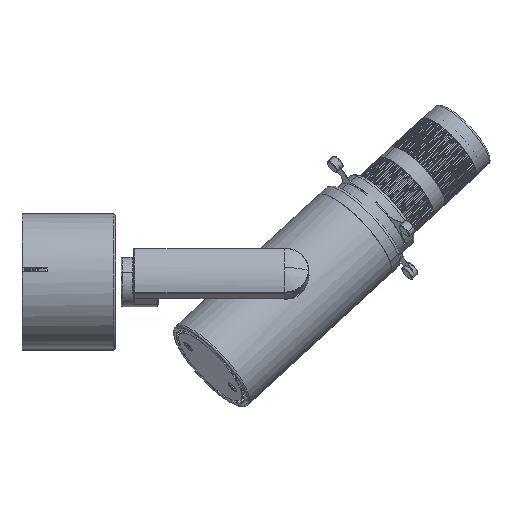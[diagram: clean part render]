
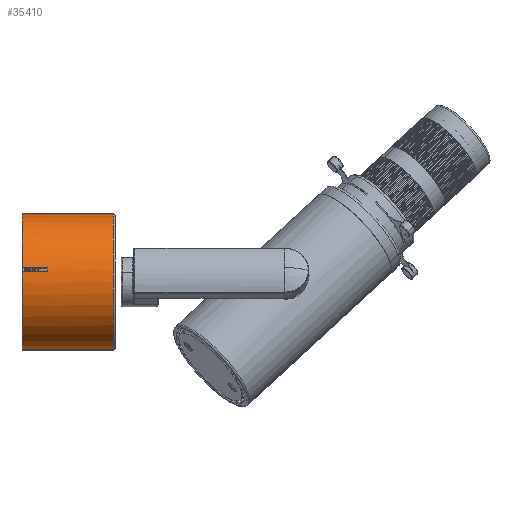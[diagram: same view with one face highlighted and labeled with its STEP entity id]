
A CAD part, left-side view. The second image highlights one B-rep face of the part: STEP entity #35410.
In plain terms, the highlighted cylindrical face has radius 32.5 mm (diameter 65 mm), a partial arc.
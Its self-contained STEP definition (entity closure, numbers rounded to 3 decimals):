
#7746 = VERTEX_POINT ( 'NONE', #26640 ) ;
#7763 = EDGE_CURVE ( 'NONE', #21160, #50539, #20123, .T. ) ;
#7766 = DIRECTION ( 'NONE',  ( -1., 0., 0. ) ) ;
#8017 = DIRECTION ( 'NONE',  ( 1., 0., 0. ) ) ;
#9281 = DIRECTION ( 'NONE',  ( 0., 0.977, 0.212 ) ) ;
#10432 = CARTESIAN_POINT ( 'NONE',  ( 63.786, 984.023, -20.469 ) ) ;
#17018 = VERTEX_POINT ( 'NONE', #103975 ) ;
#18160 = ORIENTED_EDGE ( 'NONE', *, *, #26541, .F. ) ;
#20123 = CIRCLE ( 'NONE', #116134, 32.5 ) ;
#20160 = CARTESIAN_POINT ( 'NONE',  ( 63.786, 989.926, -52.429 ) ) ;
#21014 = CARTESIAN_POINT ( 'NONE',  ( 51.786, 1016.149, -15.552 ) ) ;
#21160 = VERTEX_POINT ( 'NONE', #21014 ) ;
#22073 = ORIENTED_EDGE ( 'NONE', *, *, #174760, .F. ) ;
#23098 = LINE ( 'NONE', #218483, #149504 ) ;
#23990 = DIRECTION ( 'NONE',  ( 0., -0.182, 0.983 ) ) ;
#25968 = CARTESIAN_POINT ( 'NONE',  ( 51.786, 1015.785, -13.585 ) ) ;
#26541 = EDGE_CURVE ( 'NONE', #7746, #191439, #219952, .T. ) ;
#26640 = CARTESIAN_POINT ( 'NONE',  ( 63.786, 1015.785, -13.585 ) ) ;
#35410 = ADVANCED_FACE ( 'NONE', ( #66478 ), #190219, .T. ) ;
#37651 = EDGE_LOOP ( 'NONE', ( #103771, #18160, #96857, #118919, #218366, #51072, #155220, #22073 ) ) ;
#39099 = EDGE_CURVE ( 'NONE', #118774, #226042, #73203, .T. ) ;
#44455 = VECTOR ( 'NONE', #128751, 1000. ) ;
#45254 = EDGE_CURVE ( 'NONE', #118774, #17018, #120367, .T. ) ;
#47714 = DIRECTION ( 'NONE',  ( 1., 0., 0. ) ) ;
#50539 = VERTEX_POINT ( 'NONE', #25968 ) ;
#51072 = ORIENTED_EDGE ( 'NONE', *, *, #39099, .F. ) ;
#52951 = VECTOR ( 'NONE', #227928, 1000. ) ;
#63923 = VERTEX_POINT ( 'NONE', #206579 ) ;
#66478 = FACE_OUTER_BOUND ( 'NONE', #37651, .T. ) ;
#71190 = VECTOR ( 'NONE', #82036, 1000. ) ;
#73203 = CIRCLE ( 'NONE', #136047, 32.5 ) ;
#82036 = DIRECTION ( 'NONE',  ( 1., 0., 0. ) ) ;
#92243 = CARTESIAN_POINT ( 'NONE',  ( 20.286, 984.023, -20.469 ) ) ;
#96857 = ORIENTED_EDGE ( 'NONE', *, *, #122782, .T. ) ;
#98110 = AXIS2_PLACEMENT_3D ( 'NONE', #92243, #7766, #23990 ) ;
#98308 = DIRECTION ( 'NONE',  ( 1., 0., 0. ) ) ;
#99454 = DIRECTION ( 'NONE',  ( 1., 0., 0. ) ) ;
#103771 = ORIENTED_EDGE ( 'NONE', *, *, #170428, .T. ) ;
#103975 = CARTESIAN_POINT ( 'NONE',  ( 20.286, 989.926, -52.429 ) ) ;
#106893 = LINE ( 'NONE', #177463, #44455 ) ;
#116134 = AXIS2_PLACEMENT_3D ( 'NONE', #219729, #99454, #116775 ) ;
#116775 = DIRECTION ( 'NONE',  ( 0., 0.988, 0.151 ) ) ;
#118774 = VERTEX_POINT ( 'NONE', #20160 ) ;
#118919 = ORIENTED_EDGE ( 'NONE', *, *, #7763, .F. ) ;
#120367 = LINE ( 'NONE', #172472, #52951 ) ;
#122782 = EDGE_CURVE ( 'NONE', #7746, #50539, #106893, .T. ) ;
#128751 = DIRECTION ( 'NONE',  ( -1., 0., 0. ) ) ;
#130642 = EDGE_CURVE ( 'NONE', #21160, #226042, #137452, .T. ) ;
#136047 = AXIS2_PLACEMENT_3D ( 'NONE', #152984, #47714, #136723 ) ;
#136723 = DIRECTION ( 'NONE',  ( 0., 0.182, -0.983 ) ) ;
#137452 = LINE ( 'NONE', #188434, #71190 ) ;
#149504 = VECTOR ( 'NONE', #8017, 1000. ) ;
#149760 = CARTESIAN_POINT ( 'NONE',  ( 63.786, 1016.149, -15.552 ) ) ;
#150942 = CARTESIAN_POINT ( 'NONE',  ( 18.286, 984.023, -20.469 ) ) ;
#152984 = CARTESIAN_POINT ( 'NONE',  ( 63.786, 984.023, -20.469 ) ) ;
#155220 = ORIENTED_EDGE ( 'NONE', *, *, #45254, .T. ) ;
#170428 = EDGE_CURVE ( 'NONE', #63923, #191439, #23098, .T. ) ;
#172472 = CARTESIAN_POINT ( 'NONE',  ( 63.786, 989.926, -52.429 ) ) ;
#172877 = DIRECTION ( 'NONE',  ( 0., 0.182, -0.983 ) ) ;
#174760 = EDGE_CURVE ( 'NONE', #63923, #17018, #197871, .T. ) ;
#177463 = CARTESIAN_POINT ( 'NONE',  ( 63.786, 1015.785, -13.585 ) ) ;
#188434 = CARTESIAN_POINT ( 'NONE',  ( 51.786, 1016.149, -15.552 ) ) ;
#190219 = CYLINDRICAL_SURFACE ( 'NONE', #220272, 32.5 ) ;
#191439 = VERTEX_POINT ( 'NONE', #200561 ) ;
#197871 = CIRCLE ( 'NONE', #98110, 32.5 ) ;
#200561 = CARTESIAN_POINT ( 'NONE',  ( 63.786, 978.119, 11.49 ) ) ;
#206579 = CARTESIAN_POINT ( 'NONE',  ( 20.286, 978.119, 11.49 ) ) ;
#218366 = ORIENTED_EDGE ( 'NONE', *, *, #130642, .T. ) ;
#218483 = CARTESIAN_POINT ( 'NONE',  ( 20.286, 978.119, 11.49 ) ) ;
#219729 = CARTESIAN_POINT ( 'NONE',  ( 51.786, 984.023, -20.469 ) ) ;
#219952 = CIRCLE ( 'NONE', #223615, 32.5 ) ;
#220272 = AXIS2_PLACEMENT_3D ( 'NONE', #150942, #226046, #172877 ) ;
#223615 = AXIS2_PLACEMENT_3D ( 'NONE', #10432, #98308, #9281 ) ;
#226042 = VERTEX_POINT ( 'NONE', #149760 ) ;
#226046 = DIRECTION ( 'NONE',  ( 1., 0., 0. ) ) ;
#227928 = DIRECTION ( 'NONE',  ( -1., 0., 0. ) ) ;
